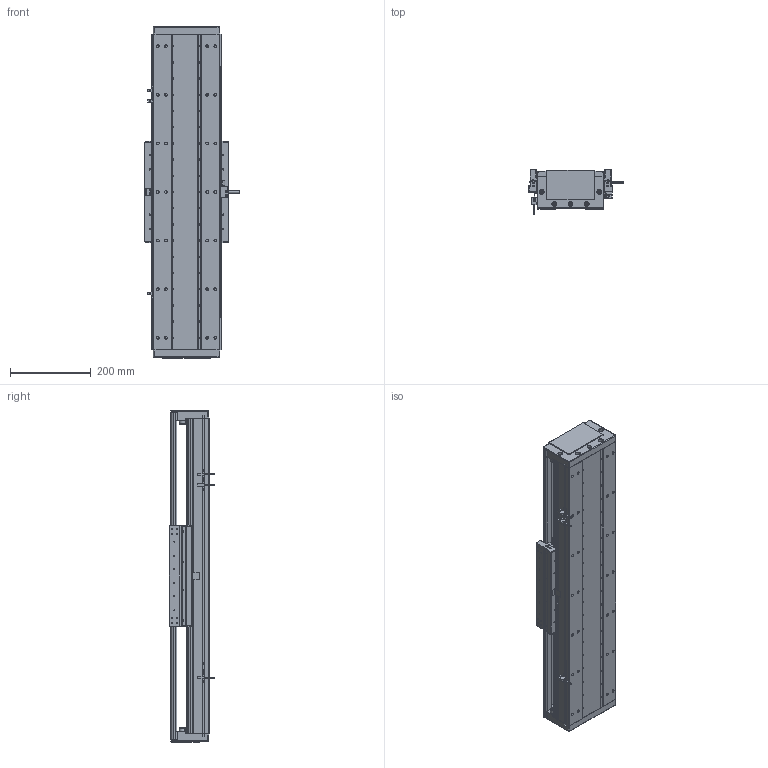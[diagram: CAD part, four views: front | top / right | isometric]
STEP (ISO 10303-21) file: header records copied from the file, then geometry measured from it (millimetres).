
FILE_DESCRIPTION (( 'STEP AP203' ), '1' );
FILE_NAME ('DA-C165-C3-T480-C010-0.2 直线电机.STEP', '2023-06-13T08:39:24', ( '微软用户' ), ( '微软中国' ), 'SwSTEP 2.0', 'SolidWorks 2019', '' );
FILE_SCHEMA (( 'CONFIG_CONTROL_DESIGN' ));
Length unit declared in the file: millimetre
Products named in the file (15): 珨极趙賑雄怢啣C3-wf; 复件 DMA-010-0.2 读数头^DA-C165-C3-T-C010-0.2-N 直线电机; 复件 六角薄螺母 M3^DA-C165-C3-T-C010-0.2-N 直线电机_GB_FASTENER_NUT_STNAB M3-C; DA-C165-C3-T480-C010-0.2 眻盄萇儂; 葩璃 PM-T45^DA-C165-C3-T-C010-0.2-N 眻盄萇儂; 复件 DA165-T-002-00 盖板^DA-C165-C3-T-C010-0.2-N 直线电机_0840-002-00; IU-CU165-L 菁釱絳寢; 复件 DA95-HXJ-00 缓冲橡胶^DA-C165-C3-T-C010-0.2-N 直线电机; 复件 DA165-GYP-00 光电感应片^DA-C165-C3-T-C010-0.2-N 直线电机; 葩璃 CKM03-W075-C1C2-TP-3.0^DA-C165-C3-T-C010-0.2-N 眻盄萇儂; 复件 CU165 底座^IU-CU165-L 底座导轨_L780; 复件 XD-U-02L 磁栅尺^DA-C165-C3-T-C010-0.2-N 直线电机_T; 葩璃 DA95-GT-T-00^IU-CU165-L 菁釱絳寢_T; 复件 DA165-DG-H-N-00 端盖^DA-C165-C3-T-C010-0.2-N 直线电机; 葩璃 CKM01-W075-TRL^DA-C165-C3-T-C010-0.2-N 眻盄萇儂
Assembly tree (30 placements, depth 3):
  DA-C165-C3-T480-C010-0.2 眻盄萇儂
    IU-CU165-L 菁釱絳寢
      复件 CU165 底座^IU-CU165-L 底座导轨_L780
      葩璃 DA95-GT-T-00^IU-CU165-L 菁釱絳寢_T  x4
    复件 DA165-DG-H-N-00 端盖^DA-C165-C3-T-C010-0.2-N 直线电机  x2
    复件 DA95-HXJ-00 缓冲橡胶^DA-C165-C3-T-C010-0.2-N 直线电机  x4
    复件 DA165-T-002-00 盖板^DA-C165-C3-T-C010-0.2-N 直线电机_0840-002-00
    复件 XD-U-02L 磁栅尺^DA-C165-C3-T-C010-0.2-N 直线电机_T
    葩璃 PM-T45^DA-C165-C3-T-C010-0.2-N 眻盄萇儂  x3
    葩璃 CKM01-W075-TRL^DA-C165-C3-T-C010-0.2-N 眻盄萇儂
    复件 DA165-GYP-00 光电感应片^DA-C165-C3-T-C010-0.2-N 直线电机
    复件 DMA-010-0.2 读数头^DA-C165-C3-T-C010-0.2-N 直线电机
    葩璃 CKM03-W075-C1C2-TP-3.0^DA-C165-C3-T-C010-0.2-N 眻盄萇儂
    复件 六角薄螺母 M3^DA-C165-C3-T-C010-0.2-N 直线电机_GB_FASTENER_NUT_STNAB M3-C  x8
    珨极趙賑雄怢啣C3-wf
Bounding box: 233 x 111.45 x 820 mm (x, y, z)
Volume: 6987589.7 mm3; surface area: 1799519.1 mm2
Topology: 68 solids, 118 shells, 3435 faces, 9066 edges, 5596 vertices
Faces by surface type: cylinder 1658, plane 1167, cone 552, torus 54, sphere 4
Entity records: 99281 total; most frequent: CARTESIAN_POINT 22756, DIRECTION 15964, ORIENTED_EDGE 15186, EDGE_CURVE 7593, AXIS2_PLACEMENT_3D 6032, VERTEX_POINT 4884, LINE 3900, VECTOR 3900
